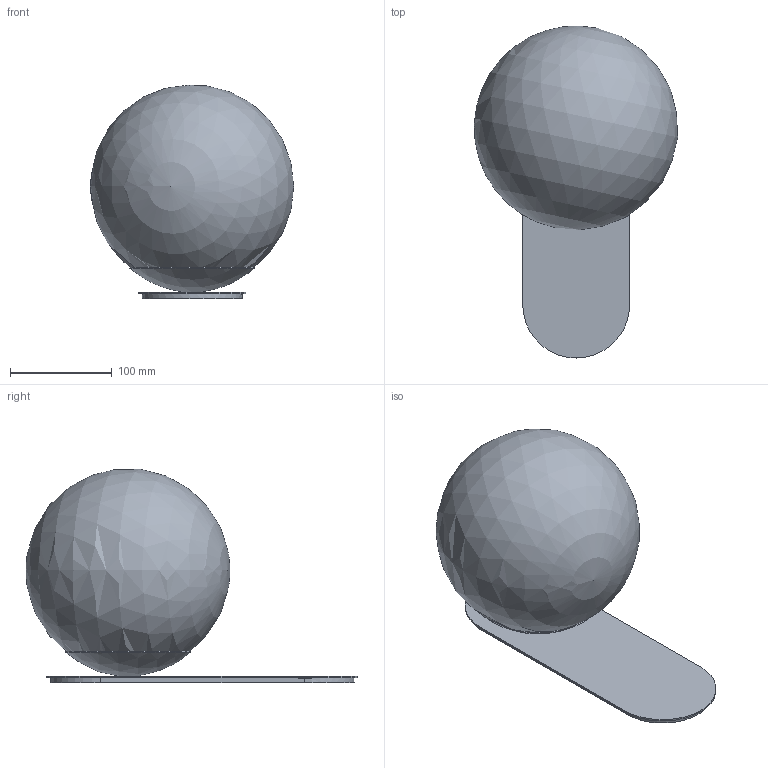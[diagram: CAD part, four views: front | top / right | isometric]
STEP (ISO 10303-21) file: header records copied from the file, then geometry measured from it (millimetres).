
FILE_DESCRIPTION(/* description */ (''),/* implementation_level */ '2;1');
FILE_NAME(/* name */ 'B742 Adrion Wall Sconce MD_200 CE_v1 - katalog.stp',/* time_stamp */ '2025-05-23T14:31:21+02:00',/* author */ ('Lukasz'),/* organization */ (''),/* preprocessor_version */ 'ST-DEVELOPER v20.1',/* originating_system */ 'Autodesk Inventor 2026',/* authorisation */ '');
FILE_SCHEMA (('AUTOMOTIVE_DESIGN { 1 0 10303 214 3 1 1 }'));
Length unit declared in the file: millimetre
Products named in the file (1): B742 Adrion Wall Sconce MD_200 CE_v1 - katalog
Bounding box: 199.49 x 325.42 x 209.42 mm (x, y, z)
Volume: 4343381.1 mm3; surface area: 271597 mm2
Topology: 7 solids, 7 shells, 35 faces, 66 edges, 44 vertices
Faces by surface type: plane 17, cylinder 10, bspline 4, sphere 3, cone 1
Full cylindrical faces by diameter (mm): 10 x2, 16 x2
Entity records: 1792 total; most frequent: CARTESIAN_POINT 955, DIRECTION 149, ORIENTED_EDGE 128, EDGE_CURVE 64, AXIS2_PLACEMENT_3D 61, VERTEX_POINT 44, STYLED_ITEM 42, EDGE_LOOP 38
